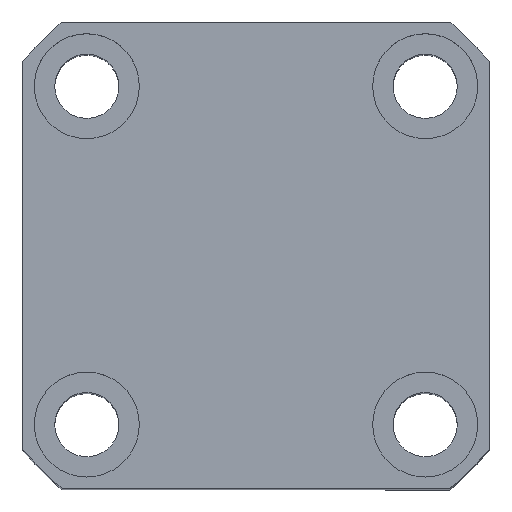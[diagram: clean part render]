
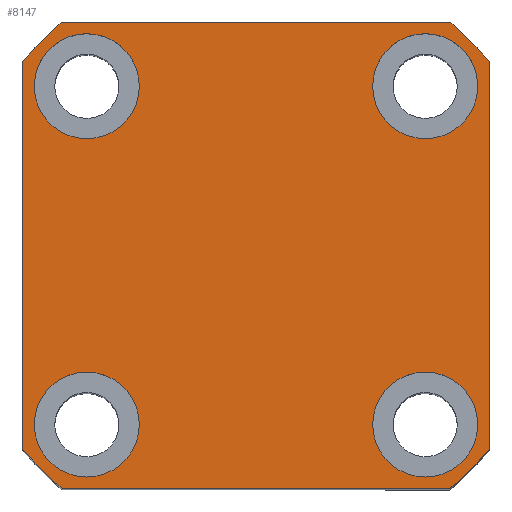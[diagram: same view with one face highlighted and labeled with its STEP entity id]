
A CAD part, top view. The second image highlights one B-rep face of the part: STEP entity #8147.
In plain terms, the highlighted planar face has unit normal (0, 0, 1).
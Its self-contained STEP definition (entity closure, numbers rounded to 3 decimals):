
#159 = DIRECTION ( 'NONE',  ( 1., 0., 0. ) ) ;
#375 = DIRECTION ( 'NONE',  ( 1., 0., 0. ) ) ;
#588 = DIRECTION ( 'NONE',  ( 1., 0., 0. ) ) ;
#637 = CARTESIAN_POINT ( 'NONE',  ( 29., -29., 62.5 ) ) ;
#644 = EDGE_CURVE ( 'NONE', #9023, #6891, #11398, .T. ) ;
#847 = ORIENTED_EDGE ( 'NONE', *, *, #9863, .T. ) ;
#948 = VERTEX_POINT ( 'NONE', #10470 ) ;
#963 = AXIS2_PLACEMENT_3D ( 'NONE', #6724, #1183, #159 ) ;
#1012 = CARTESIAN_POINT ( 'NONE',  ( -33.226, 40., 62.5 ) ) ;
#1024 = CARTESIAN_POINT ( 'NONE',  ( 0., 0., 62.5 ) ) ;
#1027 = ORIENTED_EDGE ( 'NONE', *, *, #10509, .F. ) ;
#1034 = DIRECTION ( 'NONE',  ( 1., 0., 0. ) ) ;
#1047 = DIRECTION ( 'NONE',  ( 1., 0., 0. ) ) ;
#1150 = EDGE_LOOP ( 'NONE', ( #1646, #3707 ) ) ;
#1183 = DIRECTION ( 'NONE',  ( 0., 0., 1. ) ) ;
#1185 = CARTESIAN_POINT ( 'NONE',  ( 40., 33.226, 62.5 ) ) ;
#1274 = ORIENTED_EDGE ( 'NONE', *, *, #12749, .T. ) ;
#1363 = AXIS2_PLACEMENT_3D ( 'NONE', #4534, #11074, #1047 ) ;
#1429 = DIRECTION ( 'NONE',  ( 0., 1., 0. ) ) ;
#1646 = ORIENTED_EDGE ( 'NONE', *, *, #2618, .F. ) ;
#1778 = DIRECTION ( 'NONE',  ( 1., 0., 0. ) ) ;
#1797 = DIRECTION ( 'NONE',  ( 0., 0., 1. ) ) ;
#1925 = EDGE_CURVE ( 'NONE', #6891, #9023, #13754, .T. ) ;
#1992 = DIRECTION ( 'NONE',  ( 1., 0., 0. ) ) ;
#2201 = VERTEX_POINT ( 'NONE', #13520 ) ;
#2409 = CARTESIAN_POINT ( 'NONE',  ( -29., -29., 62.5 ) ) ;
#2460 = CARTESIAN_POINT ( 'NONE',  ( -38., -29., 62.5 ) ) ;
#2472 = CIRCLE ( 'NONE', #13846, 9. ) ;
#2618 = EDGE_CURVE ( 'NONE', #9338, #4599, #5409, .T. ) ;
#2671 = CIRCLE ( 'NONE', #13231, 52. ) ;
#2698 = EDGE_CURVE ( 'NONE', #4599, #9338, #7139, .T. ) ;
#2752 = FACE_BOUND ( 'NONE', #13602, .T. ) ;
#2957 = EDGE_CURVE ( 'NONE', #6675, #948, #4549, .T. ) ;
#3136 = LINE ( 'NONE', #5158, #8636 ) ;
#3162 = AXIS2_PLACEMENT_3D ( 'NONE', #5728, #3557, #8192 ) ;
#3211 = ORIENTED_EDGE ( 'NONE', *, *, #10982, .T. ) ;
#3397 = EDGE_CURVE ( 'NONE', #12764, #9475, #8154, .T. ) ;
#3557 = DIRECTION ( 'NONE',  ( 0., 0., 1. ) ) ;
#3600 = VERTEX_POINT ( 'NONE', #1012 ) ;
#3620 = AXIS2_PLACEMENT_3D ( 'NONE', #9453, #1797, #588 ) ;
#3656 = CIRCLE ( 'NONE', #4161, 52. ) ;
#3707 = ORIENTED_EDGE ( 'NONE', *, *, #2698, .F. ) ;
#3764 = CIRCLE ( 'NONE', #7053, 9. ) ;
#3781 = ORIENTED_EDGE ( 'NONE', *, *, #12554, .F. ) ;
#3789 = FACE_BOUND ( 'NONE', #13757, .T. ) ;
#3861 = VERTEX_POINT ( 'NONE', #8090 ) ;
#4141 = FACE_OUTER_BOUND ( 'NONE', #10669, .T. ) ;
#4149 = EDGE_CURVE ( 'NONE', #7280, #3600, #8993, .T. ) ;
#4161 = AXIS2_PLACEMENT_3D ( 'NONE', #5747, #11041, #12322 ) ;
#4269 = EDGE_CURVE ( 'NONE', #11144, #3861, #3136, .T. ) ;
#4308 = ORIENTED_EDGE ( 'NONE', *, *, #1925, .F. ) ;
#4453 = CARTESIAN_POINT ( 'NONE',  ( -40., -33.226, 62.5 ) ) ;
#4461 = DIRECTION ( 'NONE',  ( 0., -1., 0. ) ) ;
#4491 = CARTESIAN_POINT ( 'NONE',  ( -38., 29., 62.5 ) ) ;
#4534 = CARTESIAN_POINT ( 'NONE',  ( 0., 0., 62.5 ) ) ;
#4549 = LINE ( 'NONE', #1185, #11873 ) ;
#4599 = VERTEX_POINT ( 'NONE', #4491 ) ;
#4616 = DIRECTION ( 'NONE',  ( 1., 0., 0. ) ) ;
#4737 = VERTEX_POINT ( 'NONE', #9631 ) ;
#4742 = EDGE_CURVE ( 'NONE', #4737, #2201, #8457, .T. ) ;
#4877 = VECTOR ( 'NONE', #13538, 1000. ) ;
#5158 = CARTESIAN_POINT ( 'NONE',  ( -33.226, -40., 62.5 ) ) ;
#5287 = CARTESIAN_POINT ( 'NONE',  ( 29., -29., 62.5 ) ) ;
#5341 = ORIENTED_EDGE ( 'NONE', *, *, #4742, .F. ) ;
#5409 = CIRCLE ( 'NONE', #3162, 9. ) ;
#5637 = PLANE ( 'NONE',  #1363 ) ;
#5728 = CARTESIAN_POINT ( 'NONE',  ( -29., 29., 62.5 ) ) ;
#5747 = CARTESIAN_POINT ( 'NONE',  ( 0., 0., 62.5 ) ) ;
#5985 = CARTESIAN_POINT ( 'NONE',  ( 20., 29., 62.5 ) ) ;
#6095 = ORIENTED_EDGE ( 'NONE', *, *, #14159, .F. ) ;
#6102 = CIRCLE ( 'NONE', #963, 9. ) ;
#6199 = AXIS2_PLACEMENT_3D ( 'NONE', #13489, #11307, #375 ) ;
#6265 = DIRECTION ( 'NONE',  ( 1., 0., 0. ) ) ;
#6366 = VERTEX_POINT ( 'NONE', #5985 ) ;
#6427 = CARTESIAN_POINT ( 'NONE',  ( 0., 0., 62.5 ) ) ;
#6610 = CARTESIAN_POINT ( 'NONE',  ( -20., 29., 62.5 ) ) ;
#6669 = AXIS2_PLACEMENT_3D ( 'NONE', #2409, #11209, #13431 ) ;
#6675 = VERTEX_POINT ( 'NONE', #12624 ) ;
#6724 = CARTESIAN_POINT ( 'NONE',  ( 29., 29., 62.5 ) ) ;
#6891 = VERTEX_POINT ( 'NONE', #2460 ) ;
#7053 = AXIS2_PLACEMENT_3D ( 'NONE', #637, #11692, #6265 ) ;
#7139 = CIRCLE ( 'NONE', #8937, 9. ) ;
#7178 = CARTESIAN_POINT ( 'NONE',  ( -29., 29., 62.5 ) ) ;
#7280 = VERTEX_POINT ( 'NONE', #12939 ) ;
#7309 = ORIENTED_EDGE ( 'NONE', *, *, #3397, .T. ) ;
#7314 = DIRECTION ( 'NONE',  ( 0., 0., 1. ) ) ;
#7491 = DIRECTION ( 'NONE',  ( 0., 0., 1. ) ) ;
#8090 = CARTESIAN_POINT ( 'NONE',  ( 33.226, -40., 62.5 ) ) ;
#8147 = ADVANCED_FACE ( 'NONE', ( #2752, #13005, #9622, #3789, #4141 ), #5637, .T. ) ;
#8154 = LINE ( 'NONE', #12136, #8487 ) ;
#8192 = DIRECTION ( 'NONE',  ( 1., 0., 0. ) ) ;
#8457 = CIRCLE ( 'NONE', #13191, 9. ) ;
#8487 = VECTOR ( 'NONE', #4461, 1000. ) ;
#8636 = VECTOR ( 'NONE', #1992, 1000. ) ;
#8689 = ORIENTED_EDGE ( 'NONE', *, *, #2957, .T. ) ;
#8891 = CARTESIAN_POINT ( 'NONE',  ( 38., 29., 62.5 ) ) ;
#8937 = AXIS2_PLACEMENT_3D ( 'NONE', #7178, #7314, #1778 ) ;
#8993 = LINE ( 'NONE', #10241, #4877 ) ;
#9023 = VERTEX_POINT ( 'NONE', #13469 ) ;
#9338 = VERTEX_POINT ( 'NONE', #6610 ) ;
#9453 = CARTESIAN_POINT ( 'NONE',  ( -29., -29., 62.5 ) ) ;
#9475 = VERTEX_POINT ( 'NONE', #4453 ) ;
#9536 = DIRECTION ( 'NONE',  ( 1., 0., 0. ) ) ;
#9585 = DIRECTION ( 'NONE',  ( 0., 0., 1. ) ) ;
#9613 = ORIENTED_EDGE ( 'NONE', *, *, #4269, .T. ) ;
#9622 = FACE_BOUND ( 'NONE', #1150, .T. ) ;
#9631 = CARTESIAN_POINT ( 'NONE',  ( 20., -29., 62.5 ) ) ;
#9728 = ORIENTED_EDGE ( 'NONE', *, *, #644, .F. ) ;
#9863 = EDGE_CURVE ( 'NONE', #3600, #12764, #10716, .T. ) ;
#10065 = EDGE_CURVE ( 'NONE', #948, #7280, #2671, .T. ) ;
#10241 = CARTESIAN_POINT ( 'NONE',  ( -33.226, 40., 62.5 ) ) ;
#10403 = ORIENTED_EDGE ( 'NONE', *, *, #10065, .T. ) ;
#10470 = CARTESIAN_POINT ( 'NONE',  ( 40., 33.226, 62.5 ) ) ;
#10509 = EDGE_CURVE ( 'NONE', #6366, #10549, #6102, .T. ) ;
#10549 = VERTEX_POINT ( 'NONE', #8891 ) ;
#10669 = EDGE_LOOP ( 'NONE', ( #10403, #12563, #847, #7309, #3211, #9613, #1274, #8689 ) ) ;
#10716 = CIRCLE ( 'NONE', #6199, 52. ) ;
#10906 = DIRECTION ( 'NONE',  ( 1., 0., 0. ) ) ;
#10982 = EDGE_CURVE ( 'NONE', #9475, #11144, #12731, .T. ) ;
#11041 = DIRECTION ( 'NONE',  ( 0., 0., 1. ) ) ;
#11043 = CARTESIAN_POINT ( 'NONE',  ( -33.226, -40., 62.5 ) ) ;
#11074 = DIRECTION ( 'NONE',  ( 0., 0., 1. ) ) ;
#11144 = VERTEX_POINT ( 'NONE', #11043 ) ;
#11209 = DIRECTION ( 'NONE',  ( 0., 0., 1. ) ) ;
#11250 = DIRECTION ( 'NONE',  ( 0., 0., 1. ) ) ;
#11307 = DIRECTION ( 'NONE',  ( 0., 0., 1. ) ) ;
#11398 = CIRCLE ( 'NONE', #6669, 9. ) ;
#11692 = DIRECTION ( 'NONE',  ( 0., 0., 1. ) ) ;
#11873 = VECTOR ( 'NONE', #1429, 1000. ) ;
#12136 = CARTESIAN_POINT ( 'NONE',  ( -40., 33.226, 62.5 ) ) ;
#12322 = DIRECTION ( 'NONE',  ( 1., 0., 0. ) ) ;
#12554 = EDGE_CURVE ( 'NONE', #10549, #6366, #2472, .T. ) ;
#12563 = ORIENTED_EDGE ( 'NONE', *, *, #4149, .T. ) ;
#12624 = CARTESIAN_POINT ( 'NONE',  ( 40., -33.226, 62.5 ) ) ;
#12731 = CIRCLE ( 'NONE', #12754, 52. ) ;
#12749 = EDGE_CURVE ( 'NONE', #3861, #6675, #3656, .T. ) ;
#12754 = AXIS2_PLACEMENT_3D ( 'NONE', #1024, #14129, #10906 ) ;
#12764 = VERTEX_POINT ( 'NONE', #13267 ) ;
#12939 = CARTESIAN_POINT ( 'NONE',  ( 33.226, 40., 62.5 ) ) ;
#13005 = FACE_BOUND ( 'NONE', #13403, .T. ) ;
#13191 = AXIS2_PLACEMENT_3D ( 'NONE', #5287, #7491, #1034 ) ;
#13231 = AXIS2_PLACEMENT_3D ( 'NONE', #6427, #9585, #9536 ) ;
#13267 = CARTESIAN_POINT ( 'NONE',  ( -40., 33.226, 62.5 ) ) ;
#13371 = CARTESIAN_POINT ( 'NONE',  ( 29., 29., 62.5 ) ) ;
#13403 = EDGE_LOOP ( 'NONE', ( #9728, #4308 ) ) ;
#13431 = DIRECTION ( 'NONE',  ( 1., 0., 0. ) ) ;
#13469 = CARTESIAN_POINT ( 'NONE',  ( -20., -29., 62.5 ) ) ;
#13489 = CARTESIAN_POINT ( 'NONE',  ( 0., 0., 62.5 ) ) ;
#13520 = CARTESIAN_POINT ( 'NONE',  ( 38., -29., 62.5 ) ) ;
#13538 = DIRECTION ( 'NONE',  ( -1., 0., 0. ) ) ;
#13602 = EDGE_LOOP ( 'NONE', ( #6095, #5341 ) ) ;
#13754 = CIRCLE ( 'NONE', #3620, 9. ) ;
#13757 = EDGE_LOOP ( 'NONE', ( #3781, #1027 ) ) ;
#13846 = AXIS2_PLACEMENT_3D ( 'NONE', #13371, #11250, #4616 ) ;
#14129 = DIRECTION ( 'NONE',  ( 0., 0., 1. ) ) ;
#14159 = EDGE_CURVE ( 'NONE', #2201, #4737, #3764, .T. ) ;
